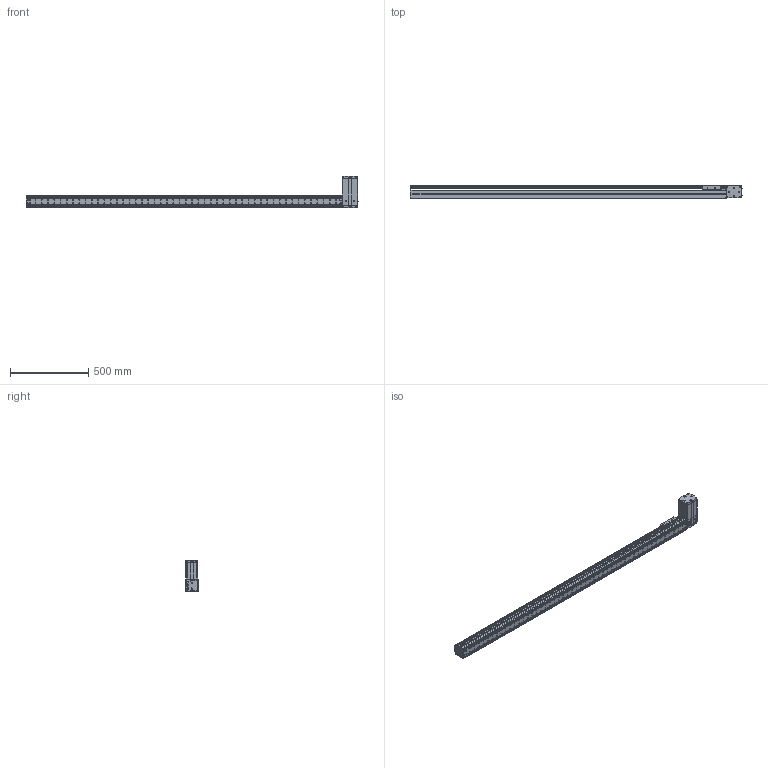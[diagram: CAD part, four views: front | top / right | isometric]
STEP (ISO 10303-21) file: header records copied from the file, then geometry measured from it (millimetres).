
FILE_DESCRIPTION((''),'2;1');
FILE_NAME('BE10_-BR-M_N-J0_IGS_PRT','2017-06-18T',(' '),(''),'PRO/ENGINEER BY PARAMETRIC TECHNOLOGY CORPORATION, 2015030','PRO/ENGINEER BY PARAMETRIC TECHNOLOGY CORPORATION, 2015030','');
FILE_SCHEMA(('CONFIG_CONTROL_DESIGN'));
Products named in the file (1): BE10_-BR-M_N-J0_IGS_PRT
Bounding box: 2120.8 x 85 x 200.22 mm (x, y, z)
Volume: 2758555 mm3; surface area: 1954282.6 mm2
Topology: 5 solids, 179 shells, 2378 faces, 6508 edges, 4336 vertices
Faces by surface type: cylinder 1136, plane 1079, cone 107, sphere 28, torus 25, bspline 3
Entity records: 77885 total; most frequent: CARTESIAN_POINT 16123, DIRECTION 13163, ORIENTED_EDGE 12196, EDGE_CURVE 6436, AXIS2_PLACEMENT_3D 4841, VERTEX_POINT 4331, VECTOR 3481, LINE 3481
